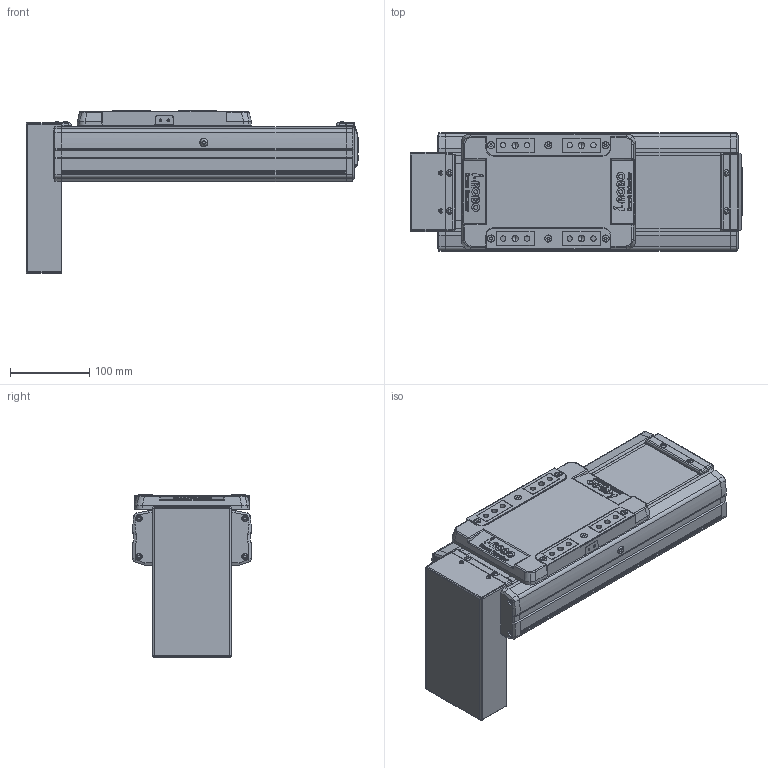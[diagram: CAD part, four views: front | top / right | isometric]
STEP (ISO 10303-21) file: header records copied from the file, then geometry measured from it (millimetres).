
FILE_DESCRIPTION(('STEP AP214'),'1');
FILE_NAME('Z:/Web/3D/SAN150/2013.04 (STP.)/SAN150ㅁㅁ-100PB.stp','2013-05-08T02:44:35',(' '),(' '),'Spatial InterOp 3D',' ',' ');
FILE_SCHEMA(('automotive_design'));
Length unit declared in the file: millimetre
Products named in the file (38): SLBL-SAN150; SLCV-SAN150; FHCS M4.0 x 8.0; BHCS M4.0 x 10.0; SFX-SAN150; RRCV-SAN150; FRBL-SAN150; Spacer; RN15; FRCV-SAN150; Screw 20; BASE-SAN150-000L ; SUS COVER; 스크루 : Round - M5.0 x 6.0; PB; 스크루 : Round - M3.0 x 6.0
Bounding box: 420 x 150 x 205.4 mm (x, y, z)
Volume: 3562812.8 mm3; surface area: 596393.8 mm2
Topology: 38 solids, 38 shells, 1995 faces, 5125 edges, 3278 vertices
Faces by surface type: plane 1003, cylinder 697, cone 206, sphere 56, bspline 21, torus 12
Entity records: 78786 total; most frequent: CARTESIAN_POINT 12530, DIRECTION 10868, ORIENTED_EDGE 10066, EDGE_CURVE 5033, AXIS2_PLACEMENT_3D 3883, VERTEX_POINT 3278, LINE 3102, VECTOR 3102
